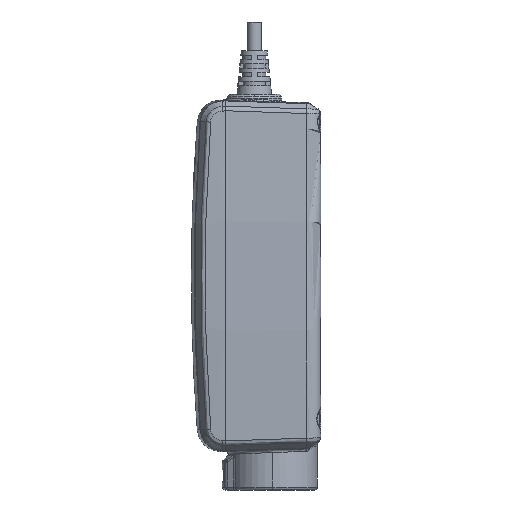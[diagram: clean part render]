
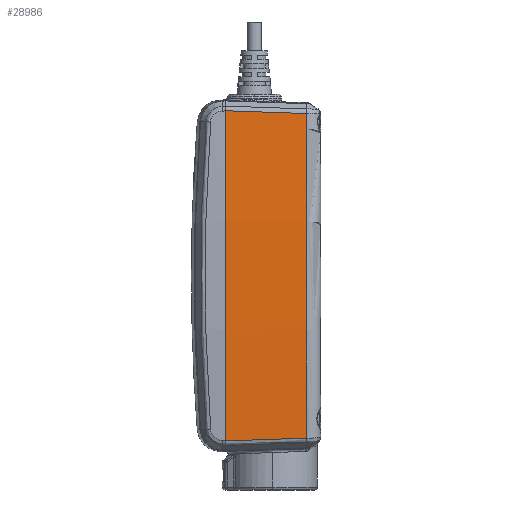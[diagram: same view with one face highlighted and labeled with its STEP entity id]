
A CAD part, left-side view. The second image highlights one B-rep face of the part: STEP entity #28986.
In plain terms, the highlighted conical face has half-angle 2 degrees and reference radius 1000 mm.
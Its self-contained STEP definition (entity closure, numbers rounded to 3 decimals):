
#67 = VERTEX_POINT ( 'NONE', #496 ) ;
#256 = VERTEX_POINT ( 'NONE', #14945 ) ;
#373 = VERTEX_POINT ( 'NONE', #14981 ) ;
#417 = VERTEX_POINT ( 'NONE', #14512 ) ;
#496 = CARTESIAN_POINT ( 'NONE',  ( -40.706, 0., 57.24 ) ) ;
#4685 = FACE_OUTER_BOUND ( 'NONE', #26988, .T. ) ;
#4694 = CONICAL_SURFACE ( 'NONE', #24386, 1000., 0.035 ) ;
#4842 = EDGE_CURVE ( 'NONE', #373, #256, #11238, .T. ) ;
#4924 = EDGE_CURVE ( 'NONE', #417, #67, #11181, .T. ) ;
#4925 = EDGE_CURVE ( 'NONE', #256, #67, #23912, .T. ) ;
#4927 = EDGE_CURVE ( 'NONE', #417, #373, #23899, .T. ) ;
#8589 = CARTESIAN_POINT ( 'NONE',  ( -40.658, -1.462, 57.189 ) ) ;
#8590 = CARTESIAN_POINT ( 'NONE',  ( -40.706, 0., 57.24 ) ) ;
#8596 = DIRECTION ( 'NONE',  ( 0., 1., 0. ) ) ;
#8616 = CARTESIAN_POINT ( 'NONE',  ( -40.349, -10.831, 56.865 ) ) ;
#8627 = CARTESIAN_POINT ( 'NONE',  ( -40.242, -14.053, 56.753 ) ) ;
#8630 = CARTESIAN_POINT ( 'NONE',  ( -40.561, -4.387, 57.088 ) ) ;
#8638 = CARTESIAN_POINT ( 'NONE',  ( -40.397, -9.368, -56.915 ) ) ;
#8652 = CARTESIAN_POINT ( 'NONE',  ( -39.923, -23.718, -56.418 ) ) ;
#8671 = DIRECTION ( 'NONE',  ( 0., 0., -1. ) ) ;
#8682 = CARTESIAN_POINT ( 'NONE',  ( -39.932, -23.467, 56.426 ) ) ;
#8683 = DIRECTION ( 'NONE',  ( 0., 0., 1. ) ) ;
#8687 = CARTESIAN_POINT ( 'NONE',  ( -40.03, -20.496, -56.529 ) ) ;
#8697 = CARTESIAN_POINT ( 'NONE',  ( -39.776, -28.174, 56.263 ) ) ;
#8716 = CARTESIAN_POINT ( 'NONE',  ( -40.455, -7.609, 56.976 ) ) ;
#8910 = CARTESIAN_POINT ( 'NONE',  ( -40.551, -4.684, -57.078 ) ) ;
#9152 = CARTESIAN_POINT ( 'NONE',  ( -39.874, -25.203, -56.366 ) ) ;
#9301 = CARTESIAN_POINT ( 'NONE',  ( -40.61, -2.925, 57.139 ) ) ;
#9314 = CARTESIAN_POINT ( 'NONE',  ( -40.087, -18.76, 56.59 ) ) ;
#9456 = CARTESIAN_POINT ( 'NONE',  ( -40.706, 0., -57.24 ) ) ;
#9494 = CARTESIAN_POINT ( 'NONE',  ( -39.776, -28.174, -56.263 ) ) ;
#9526 = CARTESIAN_POINT ( 'NONE',  ( -40.242, -14.053, -56.753 ) ) ;
#9562 = CARTESIAN_POINT ( 'NONE',  ( -39.825, -26.689, -56.315 ) ) ;
#9599 = DIRECTION ( 'NONE',  ( 0., 1., 0. ) ) ;
#9611 = CARTESIAN_POINT ( 'NONE',  ( 957.654, 0., 0. ) ) ;
#9646 = CARTESIAN_POINT ( 'NONE',  ( 957.654, -28.174, 0. ) ) ;
#9738 = CARTESIAN_POINT ( 'NONE',  ( -40.136, -17.274, -56.641 ) ) ;
#10630 = AXIS2_PLACEMENT_3D ( 'NONE', #9646, #8596, #8671 ) ;
#10642 = AXIS2_PLACEMENT_3D ( 'NONE', #9611, #9599, #8683 ) ;
#11181 = CIRCLE ( 'NONE', #10642, 1000. ) ;
#11238 = CIRCLE ( 'NONE', #10630, 999.016 ) ;
#14512 = CARTESIAN_POINT ( 'NONE',  ( -40.706, 0., -57.24 ) ) ;
#14945 = CARTESIAN_POINT ( 'NONE',  ( -39.776, -28.174, 56.263 ) ) ;
#14981 = CARTESIAN_POINT ( 'NONE',  ( -39.776, -28.174, -56.263 ) ) ;
#21524 = DIRECTION ( 'NONE',  ( 0., 0., 1. ) ) ;
#21529 = DIRECTION ( 'NONE',  ( 0., 1., 0. ) ) ;
#21530 = CARTESIAN_POINT ( 'NONE',  ( 957.654, 0., 0. ) ) ;
#23899 = B_SPLINE_CURVE_WITH_KNOTS ( 'NONE', 3,
 ( #9456, #8910, #8638, #9526, #9738, #8687, #8652, #9152, #9562, #9494 ),
 .UNSPECIFIED., .F., .F.,
 ( 4, 3, 3, 4 ),
 ( 0., 0.014, 0.024, 0.028 ),
 .UNSPECIFIED. ) ;
#23912 = B_SPLINE_CURVE_WITH_KNOTS ( 'NONE', 3,
 ( #8697, #8682, #9314, #8627, #8616, #8716, #8630, #9301, #8589, #8590 ),
 .UNSPECIFIED., .F., .F.,
 ( 4, 3, 3, 4 ),
 ( 0., 0.014, 0.024, 0.028 ),
 .UNSPECIFIED. ) ;
#24386 = AXIS2_PLACEMENT_3D ( 'NONE', #21530, #21529, #21524 ) ;
#24769 = ORIENTED_EDGE ( 'NONE', *, *, #4925, .T. ) ;
#26988 = EDGE_LOOP ( 'NONE', ( #28194, #28156, #28167, #24769 ) ) ;
#28156 = ORIENTED_EDGE ( 'NONE', *, *, #4927, .T. ) ;
#28167 = ORIENTED_EDGE ( 'NONE', *, *, #4842, .T. ) ;
#28194 = ORIENTED_EDGE ( 'NONE', *, *, #4924, .F. ) ;
#28986 = ADVANCED_FACE ( 'NONE', ( #4685 ), #4694, .T. ) ;
